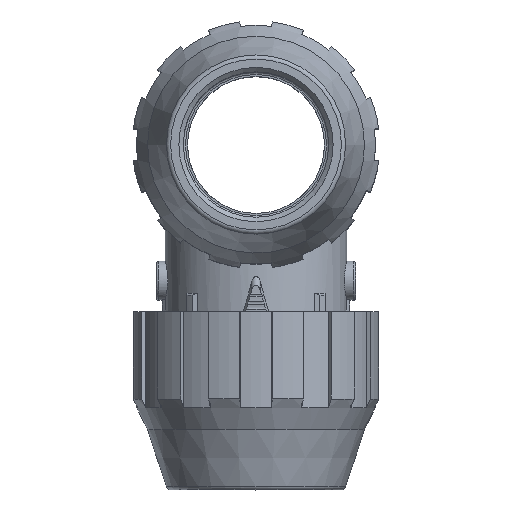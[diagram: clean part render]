
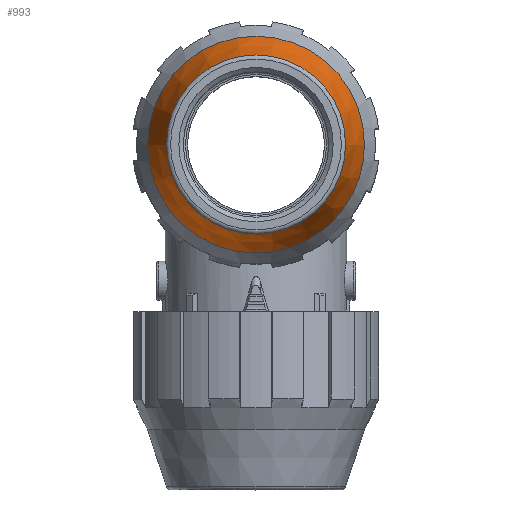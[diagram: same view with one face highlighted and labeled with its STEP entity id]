
A CAD part, top view. The second image highlights one B-rep face of the part: STEP entity #993.
In plain terms, the highlighted conical face has half-angle 18.168 degrees and reference radius 20.194 mm.
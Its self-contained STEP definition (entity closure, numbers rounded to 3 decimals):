
#993 = ADVANCED_FACE( '', ( #2296, #2297 ), #2298, .T. );
#2296 = FACE_OUTER_BOUND( '', #4768, .T. );
#2297 = FACE_BOUND( '', #4769, .T. );
#2298 = CONICAL_SURFACE( '', #4770, 20.194, 0.317 );
#4768 = EDGE_LOOP( '', ( #9731 ) );
#4769 = EDGE_LOOP( '', ( #9732 ) );
#4770 = AXIS2_PLACEMENT_3D( '', #9733, #9734, #9735 );
#9731 = ORIENTED_EDGE( '', *, *, #13624, .T. );
#9732 = ORIENTED_EDGE( '', *, *, #13439, .T. );
#9733 = CARTESIAN_POINT( '', ( 0., 0., -0.452 ) );
#9734 = DIRECTION( '', ( 0., 0., -1. ) );
#9735 = DIRECTION( '', ( -1., 0., 0. ) );
#13439 = EDGE_CURVE( '', #15571, #15571, #15572, .T. );
#13624 = EDGE_CURVE( '', #15871, #15871, #15872, .T. );
#15571 = VERTEX_POINT( '', #19164 );
#15572 = CIRCLE( '', #19165, 20.272 );
#15871 = VERTEX_POINT( '', #19691 );
#15872 = CIRCLE( '', #19692, 24.535 );
#19164 = CARTESIAN_POINT( '', ( -20.272, 0., -0.688 ) );
#19165 = AXIS2_PLACEMENT_3D( '', #23355, #23356, #23357 );
#19691 = CARTESIAN_POINT( '', ( 24.535, 0., -13.679 ) );
#19692 = AXIS2_PLACEMENT_3D( '', #23589, #23590, #23591 );
#23355 = CARTESIAN_POINT( '', ( 0., 0., -0.688 ) );
#23356 = DIRECTION( '', ( 0., 0., -1. ) );
#23357 = DIRECTION( '', ( -1., 0., 0. ) );
#23589 = CARTESIAN_POINT( '', ( 0., 0., -13.679 ) );
#23590 = DIRECTION( '', ( 0., 0., 1. ) );
#23591 = DIRECTION( '', ( 1., 0., 0. ) );
